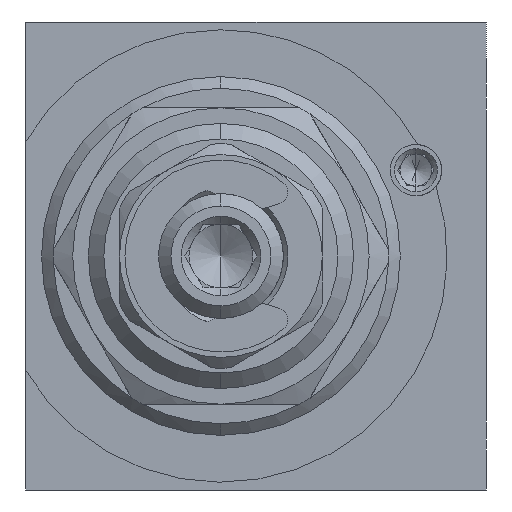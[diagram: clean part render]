
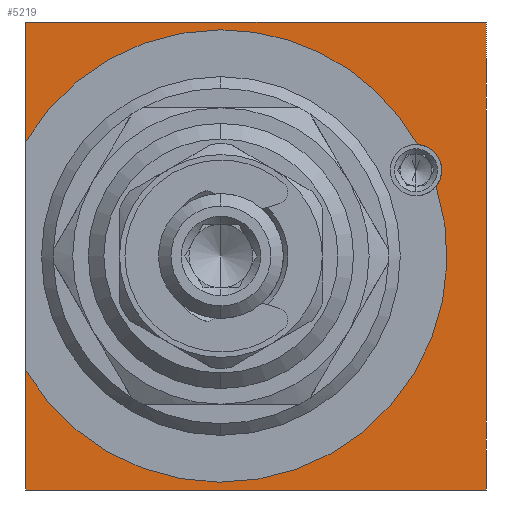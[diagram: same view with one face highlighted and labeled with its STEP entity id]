
A CAD part, left-side view. The second image highlights one B-rep face of the part: STEP entity #5219.
In plain terms, the highlighted planar face has unit normal (-1, 0, 0).
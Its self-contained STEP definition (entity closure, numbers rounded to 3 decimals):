
#170 = VECTOR ( 'NONE', #2980, 1000. ) ;
#318 = CARTESIAN_POINT ( 'NONE',  ( 0., -10.367, 7.146 ) ) ;
#393 = CARTESIAN_POINT ( 'NONE',  ( 0., -14.75, -15. ) ) ;
#535 = VERTEX_POINT ( 'NONE', #5634 ) ;
#980 = CARTESIAN_POINT ( 'NONE',  ( 0., 2.25, 0. ) ) ;
#994 = CARTESIAN_POINT ( 'NONE',  ( 0., 14.75, 15. ) ) ;
#1217 = EDGE_CURVE ( 'NONE', #5301, #535, #9204, .T. ) ;
#1324 = EDGE_CURVE ( 'NONE', #12277, #10766, #1490, .T. ) ;
#1481 = AXIS2_PLACEMENT_3D ( 'NONE', #9215, #1857, #10454 ) ;
#1490 = CIRCLE ( 'NONE', #5994, 1.65 ) ;
#1666 = LINE ( 'NONE', #12246, #11098 ) ;
#1669 = CIRCLE ( 'NONE', #1481, 14.5 ) ;
#1758 = CARTESIAN_POINT ( 'NONE',  ( 0., -14.75, 15. ) ) ;
#1857 = DIRECTION ( 'NONE',  ( 1., 0., 0. ) ) ;
#2074 = CARTESIAN_POINT ( 'NONE',  ( 0., 14.75, 15. ) ) ;
#2269 = DIRECTION ( 'NONE',  ( 0., 0., 1. ) ) ;
#2276 = DIRECTION ( 'NONE',  ( 0., 0., 1. ) ) ;
#2520 = VECTOR ( 'NONE', #2276, 1000. ) ;
#2865 = CARTESIAN_POINT ( 'NONE',  ( 0., 14.75, -15. ) ) ;
#2980 = DIRECTION ( 'NONE',  ( 0., 1., 0. ) ) ;
#3037 = CARTESIAN_POINT ( 'NONE',  ( 0., -14.75, 15. ) ) ;
#3519 = LINE ( 'NONE', #393, #170 ) ;
#3723 = DIRECTION ( 'NONE',  ( 1., 0., 0. ) ) ;
#4171 = DIRECTION ( 'NONE',  ( 0., -1., 0. ) ) ;
#4557 = EDGE_CURVE ( 'NONE', #12435, #14555, #3519, .T. ) ;
#4816 = ORIENTED_EDGE ( 'NONE', *, *, #11130, .T. ) ;
#4921 = CARTESIAN_POINT ( 'NONE',  ( 0., 14.75, -7.348 ) ) ;
#5219 = ADVANCED_FACE ( 'NONE', ( #11103 ), #15320, .T. ) ;
#5301 = VERTEX_POINT ( 'NONE', #2074 ) ;
#5358 = VECTOR ( 'NONE', #11598, 1000. ) ;
#5461 = CIRCLE ( 'NONE', #8017, 14.5 ) ;
#5634 = CARTESIAN_POINT ( 'NONE',  ( 0., -14.75, 15. ) ) ;
#5663 = DIRECTION ( 'NONE',  ( -1., 0., 0. ) ) ;
#5676 = EDGE_CURVE ( 'NONE', #535, #12435, #8607, .T. ) ;
#5971 = VECTOR ( 'NONE', #4171, 1000. ) ;
#5994 = AXIS2_PLACEMENT_3D ( 'NONE', #10859, #11071, #11331 ) ;
#6138 = ORIENTED_EDGE ( 'NONE', *, *, #1324, .F. ) ;
#6191 = LINE ( 'NONE', #994, #2520 ) ;
#6339 = ORIENTED_EDGE ( 'NONE', *, *, #4557, .F. ) ;
#6622 = EDGE_CURVE ( 'NONE', #14555, #8932, #1666, .T. ) ;
#7295 = ORIENTED_EDGE ( 'NONE', *, *, #9779, .T. ) ;
#7801 = VERTEX_POINT ( 'NONE', #8042 ) ;
#8017 = AXIS2_PLACEMENT_3D ( 'NONE', #11046, #3723, #12295 ) ;
#8042 = CARTESIAN_POINT ( 'NONE',  ( 0., 2.25, 14.5 ) ) ;
#8363 = VERTEX_POINT ( 'NONE', #11851 ) ;
#8403 = EDGE_LOOP ( 'NONE', ( #6138, #7295, #11704, #6339, #13653, #11505, #15568, #10157, #4816 ) ) ;
#8443 = DIRECTION ( 'NONE',  ( 0., 0., 1. ) ) ;
#8465 = EDGE_CURVE ( 'NONE', #8363, #5301, #6191, .T. ) ;
#8607 = LINE ( 'NONE', #3037, #5358 ) ;
#8932 = VERTEX_POINT ( 'NONE', #4921 ) ;
#9204 = LINE ( 'NONE', #1758, #5971 ) ;
#9215 = CARTESIAN_POINT ( 'NONE',  ( 0., 2.25, 0. ) ) ;
#9381 = EDGE_CURVE ( 'NONE', #8363, #7801, #11518, .T. ) ;
#9621 = DIRECTION ( 'NONE',  ( 1., 0., 0. ) ) ;
#9779 = EDGE_CURVE ( 'NONE', #12277, #8932, #1669, .T. ) ;
#10157 = ORIENTED_EDGE ( 'NONE', *, *, #9381, .T. ) ;
#10454 = DIRECTION ( 'NONE',  ( 0., 0., 1. ) ) ;
#10766 = VERTEX_POINT ( 'NONE', #318 ) ;
#10859 = CARTESIAN_POINT ( 'NONE',  ( 0., -10.25, 5.5 ) ) ;
#11046 = CARTESIAN_POINT ( 'NONE',  ( 0., 2.25, 0. ) ) ;
#11071 = DIRECTION ( 'NONE',  ( -1., 0., 0. ) ) ;
#11098 = VECTOR ( 'NONE', #8443, 1000. ) ;
#11103 = FACE_OUTER_BOUND ( 'NONE', #8403, .T. ) ;
#11130 = EDGE_CURVE ( 'NONE', #7801, #10766, #5461, .T. ) ;
#11331 = DIRECTION ( 'NONE',  ( 0., 0., 1. ) ) ;
#11505 = ORIENTED_EDGE ( 'NONE', *, *, #1217, .F. ) ;
#11518 = CIRCLE ( 'NONE', #15112, 14.5 ) ;
#11598 = DIRECTION ( 'NONE',  ( 0., 0., -1. ) ) ;
#11704 = ORIENTED_EDGE ( 'NONE', *, *, #6622, .F. ) ;
#11851 = CARTESIAN_POINT ( 'NONE',  ( 0., 14.75, 7.348 ) ) ;
#12246 = CARTESIAN_POINT ( 'NONE',  ( 0., 14.75, 15. ) ) ;
#12277 = VERTEX_POINT ( 'NONE', #12659 ) ;
#12295 = DIRECTION ( 'NONE',  ( 0., 0., 1. ) ) ;
#12435 = VERTEX_POINT ( 'NONE', #12979 ) ;
#12659 = CARTESIAN_POINT ( 'NONE',  ( 0., -11.542, 4.474 ) ) ;
#12845 = AXIS2_PLACEMENT_3D ( 'NONE', #13029, #5663, #14258 ) ;
#12979 = CARTESIAN_POINT ( 'NONE',  ( 0., -14.75, -15. ) ) ;
#13029 = CARTESIAN_POINT ( 'NONE',  ( 0., 14.75, -15. ) ) ;
#13653 = ORIENTED_EDGE ( 'NONE', *, *, #5676, .F. ) ;
#14258 = DIRECTION ( 'NONE',  ( 0., 0., 1. ) ) ;
#14555 = VERTEX_POINT ( 'NONE', #2865 ) ;
#15112 = AXIS2_PLACEMENT_3D ( 'NONE', #980, #9621, #2269 ) ;
#15320 = PLANE ( 'NONE',  #12845 ) ;
#15568 = ORIENTED_EDGE ( 'NONE', *, *, #8465, .F. ) ;
